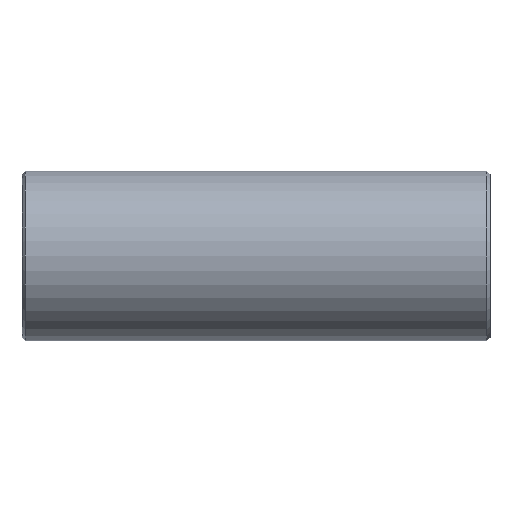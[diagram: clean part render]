
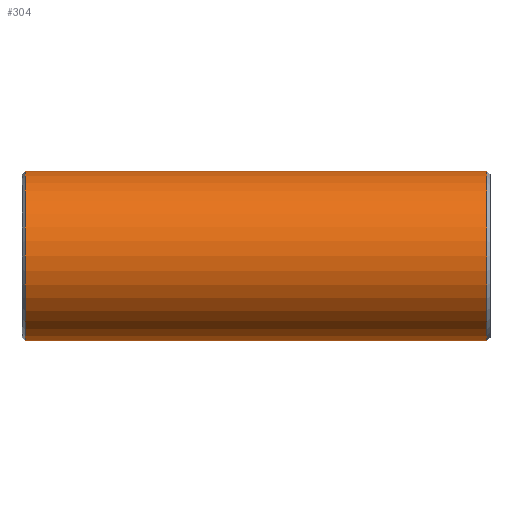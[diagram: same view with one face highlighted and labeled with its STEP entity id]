
A CAD part, front view. The second image highlights one B-rep face of the part: STEP entity #304.
In plain terms, the highlighted cylindrical face has radius 5.473 mm (diameter 10.945 mm), a full revolution.
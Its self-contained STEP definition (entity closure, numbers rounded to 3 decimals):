
#121=CARTESIAN_POINT('',(0.0,0.0,5.472));
#122=VERTEX_POINT('',#121);
#123=CARTESIAN_POINT('',(0.0,0.0,-5.472));
#124=VERTEX_POINT('',#123);
#221=CARTESIAN_POINT('',(-14.9,5.472,0.));
#222=VERTEX_POINT('',#221);
#223=CARTESIAN_POINT('',(-14.9,0.0,0.0));
#224=DIRECTION('',(-1.0,0.0,0.0));
#225=DIRECTION('',(0.0,-1.0,0.0));
#226=AXIS2_PLACEMENT_3D('',#223,#224,#225);
#227=CIRCLE('',#226,5.472);
#228=EDGE_CURVE('',#222,#222,#227,.T.);
#233=CARTESIAN_POINT('',(0.,0.0,0.0));
#234=DIRECTION('',(1.0,0.0,0.0));
#235=DIRECTION('',(0.0,1.0,0.0));
#236=AXIS2_PLACEMENT_3D('',#233,#234,#235);
#237=CYLINDRICAL_SURFACE('',#236,5.472);
#238=CARTESIAN_POINT('',(14.9,5.472,0.));
#239=VERTEX_POINT('',#238);
#240=CARTESIAN_POINT('',(14.9,0.0,0.0));
#241=DIRECTION('',(1.0,0.0,0.0));
#242=DIRECTION('',(0.0,-1.0,0.0));
#243=AXIS2_PLACEMENT_3D('',#240,#241,#242);
#244=CIRCLE('',#243,5.472);
#245=EDGE_CURVE('',#239,#239,#244,.T.);
#246=ORIENTED_EDGE('',*,*,#245,.F.);
#247=EDGE_LOOP('',(#246));
#248=FACE_OUTER_BOUND('',#247,.T.);
#249=CARTESIAN_POINT('',(5.526,4.047,3.684));
#250=VERTEX_POINT('',#249);
#251=CARTESIAN_POINT('',(0.0,0.0,0.0));
#252=DIRECTION('',(-0.591,0.807,0.0));
#253=DIRECTION('',(0.807,0.591,0.0));
#254=AXIS2_PLACEMENT_3D('',#251,#252,#253);
#255=ELLIPSE('',#254,9.262,5.472);
#256=EDGE_CURVE('',#122,#250,#255,.T.);
#257=ORIENTED_EDGE('',*,*,#256,.F.);
#258=CARTESIAN_POINT('',(-5.526,4.047,3.684));
#259=VERTEX_POINT('',#258);
#260=CARTESIAN_POINT('',(0.0,0.0,0.0));
#261=DIRECTION('',(0.591,0.807,0.0));
#262=DIRECTION('',(-0.807,0.591,0.0));
#263=AXIS2_PLACEMENT_3D('',#260,#261,#262);
#264=ELLIPSE('',#263,9.262,5.472);
#265=EDGE_CURVE('',#259,#122,#264,.T.);
#266=ORIENTED_EDGE('',*,*,#265,.F.);
#267=CARTESIAN_POINT('',(-5.526,4.047,-3.684));
#268=VERTEX_POINT('',#267);
#269=CARTESIAN_POINT('',(0.0,0.0,0.0));
#270=DIRECTION('',(0.591,0.807,0.0));
#271=DIRECTION('',(-0.807,0.591,0.0));
#272=AXIS2_PLACEMENT_3D('',#269,#270,#271);
#273=ELLIPSE('',#272,9.262,5.472);
#274=EDGE_CURVE('',#268,#259,#273,.T.);
#275=ORIENTED_EDGE('',*,*,#274,.F.);
#276=CARTESIAN_POINT('',(0.0,0.0,0.0));
#277=DIRECTION('',(0.591,0.807,0.0));
#278=DIRECTION('',(-0.807,0.591,0.0));
#279=AXIS2_PLACEMENT_3D('',#276,#277,#278);
#280=ELLIPSE('',#279,9.262,5.472);
#281=EDGE_CURVE('',#124,#268,#280,.T.);
#282=ORIENTED_EDGE('',*,*,#281,.F.);
#283=CARTESIAN_POINT('',(5.526,4.047,-3.684));
#284=VERTEX_POINT('',#283);
#285=CARTESIAN_POINT('',(0.0,0.0,0.0));
#286=DIRECTION('',(-0.591,0.807,0.0));
#287=DIRECTION('',(0.807,0.591,0.0));
#288=AXIS2_PLACEMENT_3D('',#285,#286,#287);
#289=ELLIPSE('',#288,9.262,5.472);
#290=EDGE_CURVE('',#284,#124,#289,.T.);
#291=ORIENTED_EDGE('',*,*,#290,.F.);
#292=CARTESIAN_POINT('',(0.0,0.0,0.0));
#293=DIRECTION('',(-0.591,0.807,0.0));
#294=DIRECTION('',(0.807,0.591,0.0));
#295=AXIS2_PLACEMENT_3D('',#292,#293,#294);
#296=ELLIPSE('',#295,9.262,5.472);
#297=EDGE_CURVE('',#250,#284,#296,.T.);
#298=ORIENTED_EDGE('',*,*,#297,.F.);
#299=EDGE_LOOP('',(#257,#266,#275,#282,#291,#298));
#300=FACE_BOUND('',#299,.T.);
#301=ORIENTED_EDGE('',*,*,#228,.F.);
#302=EDGE_LOOP('',(#301));
#303=FACE_BOUND('',#302,.T.);
#304=ADVANCED_FACE('',(#248,#300,#303),#237,.T.);
